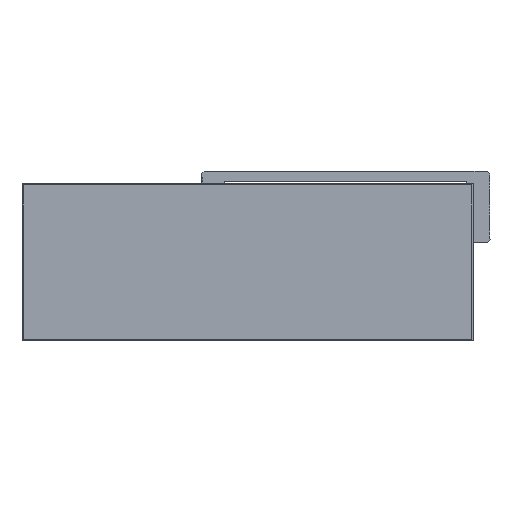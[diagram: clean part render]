
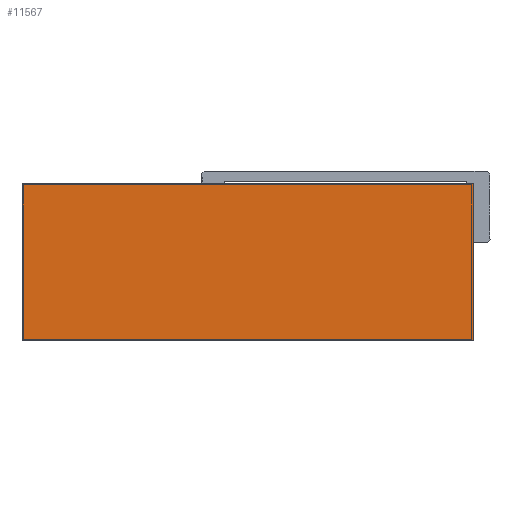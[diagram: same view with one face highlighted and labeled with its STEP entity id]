
A CAD part, top view. The second image highlights one B-rep face of the part: STEP entity #11567.
In plain terms, the highlighted planar face has unit normal (0, 0, 1).
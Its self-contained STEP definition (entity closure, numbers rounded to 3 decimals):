
#131 = LINE ( 'NONE', #22419, #15202 ) ;
#2191 = CARTESIAN_POINT ( 'NONE',  ( 313., 0., 70. ) ) ;
#3930 = DIRECTION ( 'NONE',  ( 0., 1., 0. ) ) ;
#4855 = CARTESIAN_POINT ( 'NONE',  ( 0., 109., 70. ) ) ;
#5794 = CARTESIAN_POINT ( 'NONE',  ( 0., 109., 70. ) ) ;
#6114 = AXIS2_PLACEMENT_3D ( 'NONE', #28928, #28588, #28560 ) ;
#9165 = CARTESIAN_POINT ( 'NONE',  ( 0., 0., 70. ) ) ;
#11092 = FACE_OUTER_BOUND ( 'NONE', #14959, .T. ) ;
#11567 = ADVANCED_FACE ( 'NONE', ( #11092 ), #29085, .F. ) ;
#11795 = DIRECTION ( 'NONE',  ( 1., 0., 0. ) ) ;
#11850 = LINE ( 'NONE', #22385, #18031 ) ;
#12209 = LINE ( 'NONE', #9165, #25566 ) ;
#14523 = CARTESIAN_POINT ( 'NONE',  ( 0., 0., 70. ) ) ;
#14959 = EDGE_LOOP ( 'NONE', ( #26310, #30901, #26795, #20375 ) ) ;
#15202 = VECTOR ( 'NONE', #3930, 1000. ) ;
#16676 = VERTEX_POINT ( 'NONE', #24421 ) ;
#17877 = EDGE_CURVE ( 'NONE', #20056, #29754, #12209, .T. ) ;
#18031 = VECTOR ( 'NONE', #25160, 1000. ) ;
#18908 = DIRECTION ( 'NONE',  ( -1., 0., 0. ) ) ;
#20056 = VERTEX_POINT ( 'NONE', #14523 ) ;
#20375 = ORIENTED_EDGE ( 'NONE', *, *, #33238, .T. ) ;
#22385 = CARTESIAN_POINT ( 'NONE',  ( 0., 0., 70. ) ) ;
#22419 = CARTESIAN_POINT ( 'NONE',  ( 313., 0., 70. ) ) ;
#24421 = CARTESIAN_POINT ( 'NONE',  ( 313., 109., 70. ) ) ;
#24717 = VECTOR ( 'NONE', #18908, 1000. ) ;
#25160 = DIRECTION ( 'NONE',  ( 0., -1., 0. ) ) ;
#25292 = EDGE_CURVE ( 'NONE', #29754, #16676, #131, .T. ) ;
#25566 = VECTOR ( 'NONE', #11795, 1000. ) ;
#25588 = LINE ( 'NONE', #5794, #24717 ) ;
#25796 = EDGE_CURVE ( 'NONE', #30910, #20056, #11850, .T. ) ;
#26310 = ORIENTED_EDGE ( 'NONE', *, *, #25796, .T. ) ;
#26795 = ORIENTED_EDGE ( 'NONE', *, *, #25292, .T. ) ;
#28560 = DIRECTION ( 'NONE',  ( -1., 0., 0. ) ) ;
#28588 = DIRECTION ( 'NONE',  ( 0., 0., -1. ) ) ;
#28928 = CARTESIAN_POINT ( 'NONE',  ( 0., 0., 70. ) ) ;
#29085 = PLANE ( 'NONE',  #6114 ) ;
#29754 = VERTEX_POINT ( 'NONE', #2191 ) ;
#30901 = ORIENTED_EDGE ( 'NONE', *, *, #17877, .T. ) ;
#30910 = VERTEX_POINT ( 'NONE', #4855 ) ;
#33238 = EDGE_CURVE ( 'NONE', #16676, #30910, #25588, .T. ) ;
